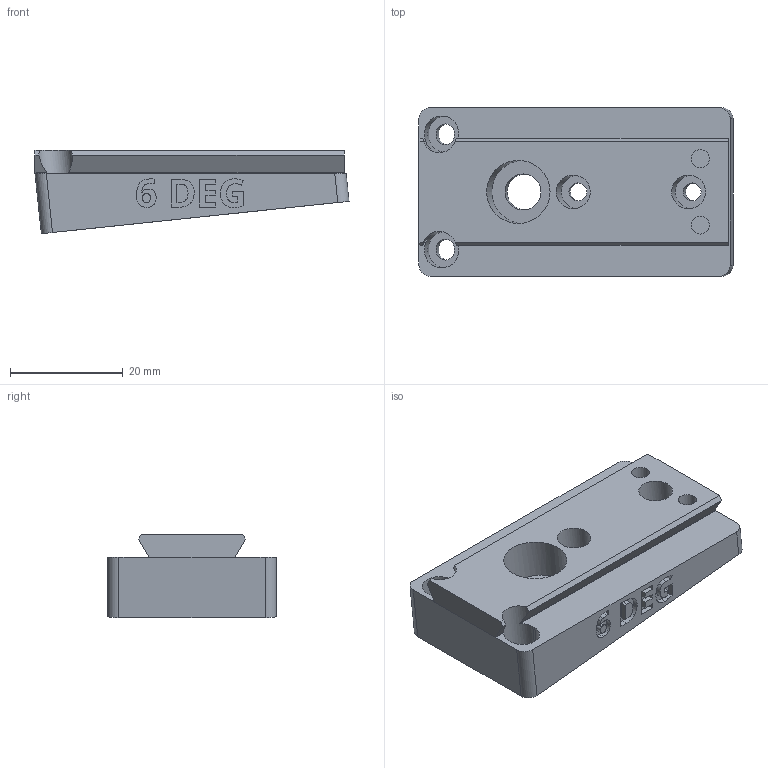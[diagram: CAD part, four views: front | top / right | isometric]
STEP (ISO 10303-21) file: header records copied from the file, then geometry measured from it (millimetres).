
FILE_DESCRIPTION(/* description */ ('STEP AP242 Edition 2','CAx-IF Rec.Pracs.---Representation and Presentation of Product Manufacturing Information (PMI)---4.0---2014-10-13','CAx-IF Rec.Pracs.---3D Tessellated Geometry---0.4---2014-09-14','2;1','CAx-IF Rec.Pracs.---User Defined Attributes---1.5---2016-08-15'),/* implementation_level */ '2;1');
FILE_NAME(/* name */ 'Camera Wedges - CAMERA MOUNTING WEDGE, POS, 6 DEG',/* time_stamp */ '2026-07-08T20:40:53Z',/* author */ (''),/* organization */ (''),/* preprocessor_version */ 'ST-DEVELOPER v20',/* originating_system */ 'ONSHAPE BY PTC INC, 1.217',/* authorisation */ ' ');
FILE_SCHEMA (('AP242_MANAGED_MODEL_BASED_3D_ENGINEERING_MIM_LF { 1 0 10303 442 3 1 4 }'));
Length unit declared in the file: metre
Products named in the file (1): CAMERA MOUNTING WEDGE, POS, 6 DEG
Bounding box: 55.83 x 30 x 14.82 mm (x, y, z)
Volume: 13986.4 mm3; surface area: 6731.5 mm2
Topology: 1 solids, 1 shells, 225 faces, 616 edges, 411 vertices
Faces by surface type: plane 115, bspline 68, cylinder 42
Full cylindrical faces by diameter (mm): 3.2 x4, 6 x2, 6.4 x1, 11.2 x1
Entity records: 7321 total; most frequent: CARTESIAN_POINT 1987, ORIENTED_EDGE 1210, DIRECTION 881, EDGE_CURVE 605, VERTEX_POINT 408, LINE 373, VECTOR 373, EDGE_LOOP 261
